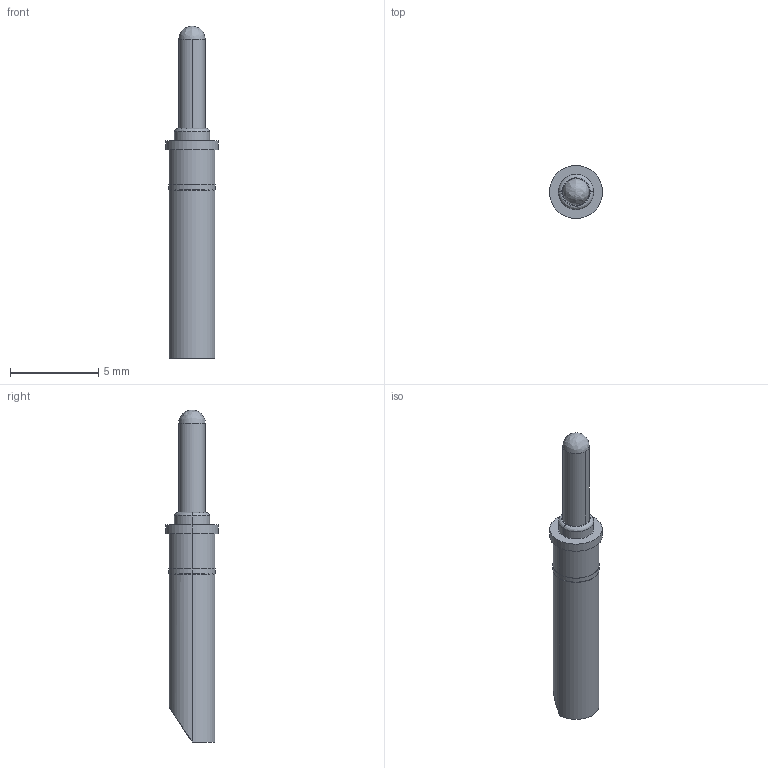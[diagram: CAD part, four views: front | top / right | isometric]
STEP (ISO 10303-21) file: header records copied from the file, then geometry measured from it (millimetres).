
FILE_DESCRIPTION (( 'STEP AP214' ), '1' );
FILE_NAME ('PD15JS.STEP', '2021-07-14T15:00:13', ( '' ), ( '' ), 'SwSTEP 2.0', 'SolidWorks 2021', '' );
FILE_SCHEMA (( 'AUTOMOTIVE_DESIGN' ));
Length unit declared in the file: millimetre
Products named in the file (1): PD15JS
Bounding box: 3 x 3 x 18.8 mm (x, y, z)
Volume: 70.8 mm3; surface area: 153.8 mm2
Topology: 1 solids, 1 shells, 27 faces, 56 edges, 31 vertices
Faces by surface type: cylinder 14, plane 6, cone 4, bspline 3
Entity records: 753 total; most frequent: CARTESIAN_POINT 168, DIRECTION 126, ORIENTED_EDGE 104, AXIS2_PLACEMENT_3D 53, EDGE_CURVE 52, EDGE_LOOP 31, VERTEX_POINT 31, CIRCLE 28
